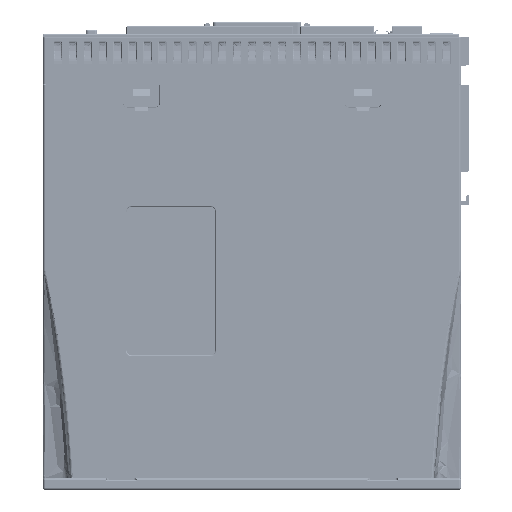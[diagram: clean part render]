
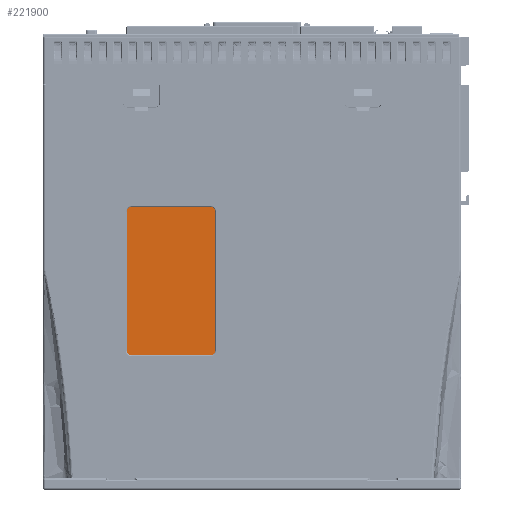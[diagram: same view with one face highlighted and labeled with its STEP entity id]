
A CAD part, left-side view. The second image highlights one B-rep face of the part: STEP entity #221900.
In plain terms, the highlighted planar face has unit normal (-1, 0, 0).
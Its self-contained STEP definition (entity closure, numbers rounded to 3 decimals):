
#204364=DIRECTION('',(0.,0.,-1.));
#204365=VECTOR('',#204364,55.6);
#204366=CARTESIAN_POINT('',(-39.7,141.39,111.7));
#204367=LINE('',#204366,#204365);
#204382=DIRECTION('',(0.,1.,0.));
#204383=VECTOR('',#204382,31.6);
#204384=CARTESIAN_POINT('',(-39.7,107.79,
113.7));
#204385=LINE('',#204384,#204383);
#204400=DIRECTION('',(0.,0.,1.));
#204401=VECTOR('',#204400,55.6);
#204402=CARTESIAN_POINT('',(-39.7,105.79,56.1));
#204403=LINE('',#204402,#204401);
#204418=DIRECTION('',(0.,-1.,0.));
#204419=VECTOR('',#204418,31.6);
#204420=CARTESIAN_POINT('',(-39.7,139.39,54.1));
#204421=LINE('',#204420,#204419);
#204422=CARTESIAN_POINT('',(-39.7,139.39,56.1));
#204423=DIRECTION('',(1.,0.,0.));
#204424=DIRECTION('',(0.,0.,-1.));
#204425=AXIS2_PLACEMENT_3D('',#204422,#204423,#204424);
#204427=CARTESIAN_POINT('',(-39.7,139.39,111.7));
#204428=DIRECTION('',(1.,0.,0.));
#204429=DIRECTION('',(0.,1.,0.));
#204430=AXIS2_PLACEMENT_3D('',#204427,#204428,#204429);
#204432=CARTESIAN_POINT('',(-39.7,107.79,111.7));
#204433=DIRECTION('',(1.,0.,0.));
#204434=DIRECTION('',(0.,0.,1.));
#204435=AXIS2_PLACEMENT_3D('',#204432,#204433,#204434);
#204437=CARTESIAN_POINT('',(-39.7,107.79,56.1));
#204438=DIRECTION('',(1.,0.,0.));
#204439=DIRECTION('',(0.,-1.,0.));
#204440=AXIS2_PLACEMENT_3D('',#204437,#204438,#204439);
#207239=CARTESIAN_POINT('',(-39.7,141.39,56.1));
#207240=VERTEX_POINT('',#207239);
#207241=CARTESIAN_POINT('',(-39.7,139.39,54.1));
#207242=VERTEX_POINT('',#207241);
#207243=CARTESIAN_POINT('',(-39.7,141.39,111.7));
#207244=VERTEX_POINT('',#207243);
#207245=CARTESIAN_POINT('',(-39.7,139.39,
113.7));
#207246=VERTEX_POINT('',#207245);
#207247=CARTESIAN_POINT('',(-39.7,107.79,
113.7));
#207248=VERTEX_POINT('',#207247);
#207249=CARTESIAN_POINT('',(-39.7,105.79,111.7));
#207250=VERTEX_POINT('',#207249);
#207251=CARTESIAN_POINT('',(-39.7,105.79,56.1));
#207252=VERTEX_POINT('',#207251);
#207253=CARTESIAN_POINT('',(-39.7,107.79,54.1));
#207254=VERTEX_POINT('',#207253);
#221885=CARTESIAN_POINT('',(-39.7,0.,0.));
#221886=DIRECTION('',(-1.,0.,0.));
#221887=DIRECTION('',(0.,0.,1.));
#221888=AXIS2_PLACEMENT_3D('',#221885,#221886,#221887);
#221889=PLANE('',#221888);
#221890=ORIENTED_EDGE('',*,*,#221781,.T.);
#221891=ORIENTED_EDGE('',*,*,#221796,.F.);
#221892=ORIENTED_EDGE('',*,*,#221810,.T.);
#221893=ORIENTED_EDGE('',*,*,#221824,.F.);
#221894=ORIENTED_EDGE('',*,*,#221838,.T.);
#221895=ORIENTED_EDGE('',*,*,#221852,.F.);
#221896=ORIENTED_EDGE('',*,*,#221866,.T.);
#221897=ORIENTED_EDGE('',*,*,#221879,.F.);
#221898=EDGE_LOOP('',(#221890,#221891,#221892,#221893,#221894,#221895,#221896,
#221897));
#221899=FACE_OUTER_BOUND('',#221898,.F.);
#204426=CIRCLE('',#204425,2.);
#204431=CIRCLE('',#204430,2.);
#204436=CIRCLE('',#204435,2.);
#204441=CIRCLE('',#204440,2.);
#221781=EDGE_CURVE('',#207242,#207240,#204426,.T.);
#221796=EDGE_CURVE('',#207244,#207240,#204367,.T.);
#221810=EDGE_CURVE('',#207244,#207246,#204431,.T.);
#221824=EDGE_CURVE('',#207248,#207246,#204385,.T.);
#221838=EDGE_CURVE('',#207248,#207250,#204436,.T.);
#221852=EDGE_CURVE('',#207252,#207250,#204403,.T.);
#221866=EDGE_CURVE('',#207252,#207254,#204441,.T.);
#221879=EDGE_CURVE('',#207242,#207254,#204421,.T.);
#221900=ADVANCED_FACE('',(#221899),#221889,.T.);
